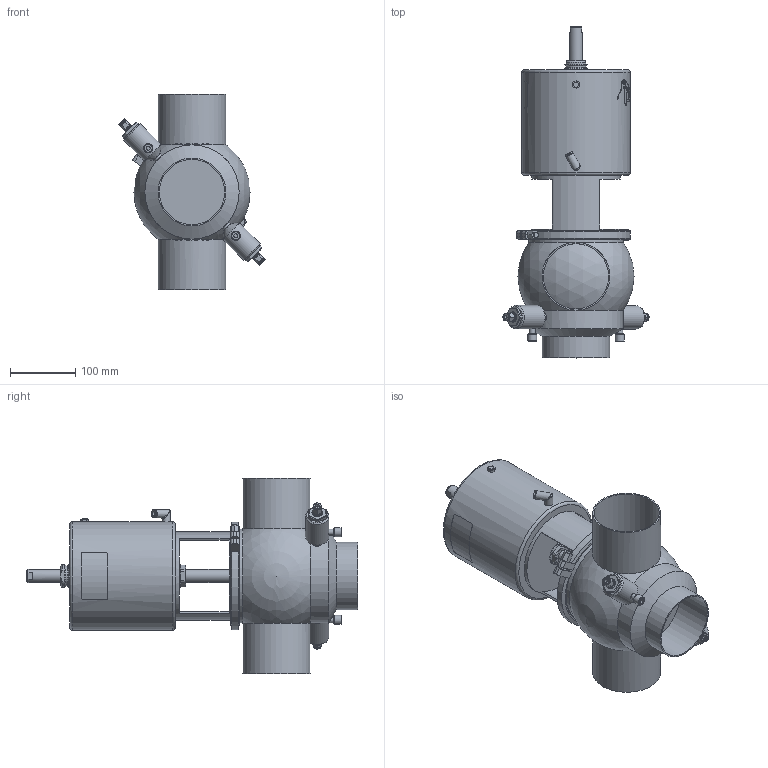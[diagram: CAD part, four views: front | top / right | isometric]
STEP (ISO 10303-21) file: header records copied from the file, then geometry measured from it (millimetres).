
FILE_DESCRIPTION (( 'STEP AP214' ), '1' );
FILE_NAME ('INNOVA D T W DIN 100 T4 AS NC_10.246.16.0002.STEP', '2024-08-08T09:16:10', ( '' ), ( '' ), 'SwSTEP 2.0', 'SolidWorks 2023', '' );
FILE_SCHEMA (( 'AUTOMOTIVE_DESIGN' ));
Length unit declared in the file: millimetre
Products named in the file (5): INNOVA D T W DIN 100 T4 AS NC_10.246.16.0002; 10.246.15.0002_DIN 100; 10.240.15.0010_DN 100; 10.240.15.0014_T4 AS P0; 10.240.15.0001_DN 100
Assembly tree (4 placements, depth 2):
  INNOVA D T W DIN 100 T4 AS NC_10.246.16.0002
    10.246.15.0002_DIN 100
    10.240.15.0010_DN 100
    10.240.15.0014_T4 AS P0
    10.240.15.0001_DN 100
Bounding box: 224.29 x 509 x 300 mm (x, y, z)
Volume: 6998598.3 mm3; surface area: 522887.7 mm2
Topology: 4 solids, 4 shells, 425 faces, 1076 edges, 696 vertices
Faces by surface type: plane 225, cylinder 85, bspline 80, cone 27, sphere 4, torus 4
Full cylindrical faces by diameter (mm): 6 x4, 6.15 x1, 8 x3, 8.5 x1, 9 x2, 10 x2, 10.5 x1, 12 x4, 12.5 x3, 14 x4, 15 x2, 16 x1, 20 x2, 31 x1, 34.5 x2, 36 x2, 36.5 x1, 100 x3, 104 x3, 135 x1, 144.5 x2, 156.5 x2, 166 x1
Entity records: 23118 total; most frequent: CARTESIAN_POINT 12063, ORIENTED_EDGE 1944, DIRECTION 1621, EDGE_CURVE 972, VERTEX_POINT 671, AXIS2_PLACEMENT_3D 612, EDGE_LOOP 549, FACE_OUTER_BOUND 479
